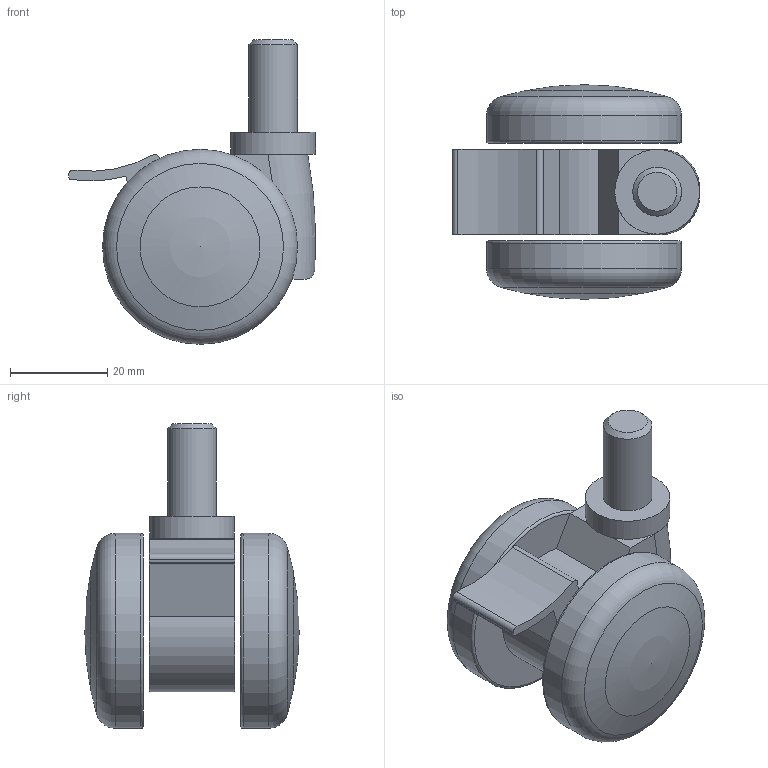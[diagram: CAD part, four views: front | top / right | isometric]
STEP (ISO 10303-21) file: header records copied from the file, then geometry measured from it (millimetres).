
FILE_DESCRIPTION(('STEP AP214'),'1');
FILE_NAME('CA40-M10.stp','2017-07-21T02:14:06',(' '),(' '),'Spatial InterOp 3D',' ',' ');
FILE_SCHEMA(('automotive_design'));
Length unit declared in the file: millimetre
Products named in the file (7): CA40-M10; CA40車輪; CA40ﾎﾞﾃﾞｨｰ; CA40シャフト
Assembly tree (6 placements, depth 2):
  CA40-M10
    CA40車輪
    CA40車輪
    (unnamed)
    (unnamed)
    CA40ﾎﾞﾃﾞｨｰ
    CA40シャフト
Bounding box: 50.69 x 44 x 62.5 mm (x, y, z)
Volume: 44167.4 mm3; surface area: 14635.8 mm2
Topology: 6 solids, 6 shells, 41 faces, 86 edges, 56 vertices
Faces by surface type: plane 17, cylinder 13, torus 6, sphere 4, cone 1
Full cylindrical faces by diameter (mm): 10 x1, 17.386 x1, 40 x2
Entity records: 1549 total; most frequent: CARTESIAN_POINT 259, DIRECTION 193, ORIENTED_EDGE 136, AXIS2_PLACEMENT_3D 83, EDGE_CURVE 68, EDGE_LOOP 53, FACE_OUTER_BOUND 51, VERTEX_POINT 51
